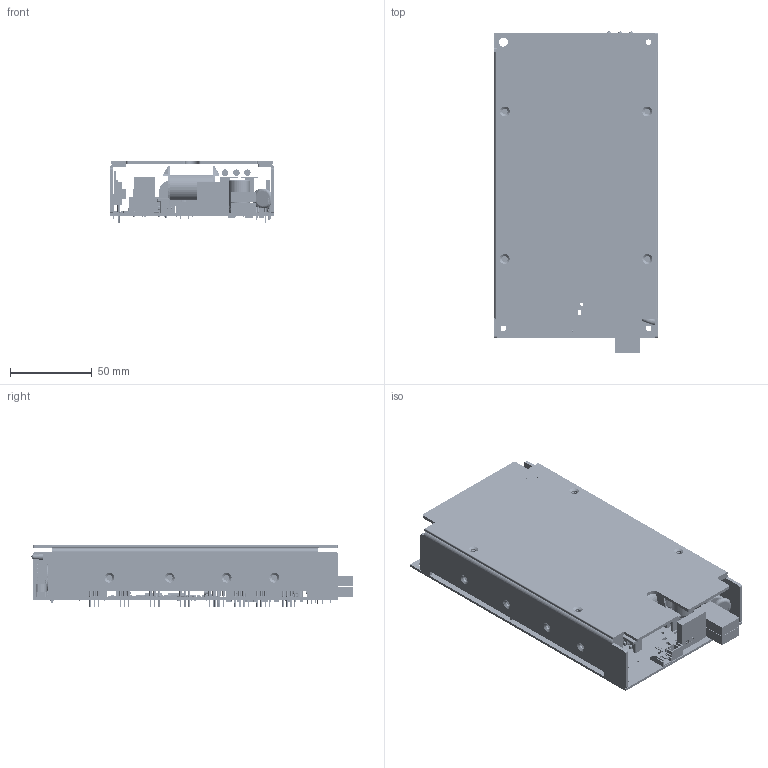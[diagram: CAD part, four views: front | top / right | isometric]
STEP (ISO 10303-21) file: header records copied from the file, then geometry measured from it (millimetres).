
FILE_DESCRIPTION(('Creo Elements/Direct Modeling STEP Export'),'2;1');
FILE_NAME('NTS-400P-20241203.stp','2024-12-03T10:57:36',(''),(''),'Creo Elements/Direct Modeling STEP processor for AP214 (Solid Model)','Creo Elements/Direct Modeling 19.0G 27-Nov-2017 (C) Parametric Technology GmbH','');
FILE_SCHEMA(('AUTOMOTIVE_DESIGN { 1 0 10303 214 1 1 1 1 }'));
Length unit declared in the file: millimetre
Products named in the file (578): 零件1; MS1_2_1.PRT; MS1_2_1_1.PRT; MS1_2.PRT; MS1_2_1_1_1_1.PRT; MS1_2_1_1_1_1_1.PRT; MS1_2_1_1_1.PRT; TO220_2__2_1_1_1.PRT; TO220_2__2_1_1.PRT; TO220_2__1.PRT; TO220_2_.PRT; TO220_2__2.PRT; TO220_2__2_1_1_1_1_1.PRT; TO220_2__2_1_1_1_1.PRT; TO220_2__2_1_1_2.PRT; TO220_2__2_1_1_1_2.PRT; TO220_2__2_1_1_2_1.PRT; TO220_2__2_1_1_3.PRT; _X2_88C5914D_X0_TABE.ASM; HRY-4040_PRT_PRT.PRT; HRY-4040_STEP_ASM.ASM; HRY-4040-0820-1_STP.ASM; CN13_1_1.PRT; CN13_2.PRT; CN13_1.PRT; CN13.PRT; _X2_88C5914D_X0_1.ASM; CYLINDER-312648_PRT.PRT; 699299776_ASM.ASM; 1ARC-ZNR_MOV7_5_PRT.PRT; ZR200_ASM.ASM; SPHERE-297770_PRT.PRT; 630091216_ASM.ASM; CYLINDER-297578_PRT.PRT; 630091368_ASM.ASM; CYLINDER-297386_PRT.PRT; 630091520_ASM.ASM; CYLINDER-297194_PRT.PRT; 868053928_ASM.ASM; CYLINDER-297002_PRT.PRT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
Assembly tree (832 placements, depth 9):
  零件1
  NTS-400P.stp
    NTS-400PA-R3.step
      PCB.ASM
        D215.ASM
          2CDX-SOD323.PRT
        D216.ASM
          2CDX-SOD323.PRT
        C161.ASM
          846095976.PRT
        C160.ASM
          846095976.PRT
        D214.ASM
          2CDX-SOD323.PRT
        D213.ASM
          2CDX-SOD323.PRT
        D212.ASM
          2CDX-SOD323.PRT
        D211.ASM
          2CDX-SOD323.PRT
        C112.ASM
          925442832.ASM  x2
            CYLINDER-287469.PRT
          1387190208.ASM
            EXTRUDED-376029.PRT
        TSW1.ASM
          1387189568.ASM
            EXTRUDED-57895.PRT
          1387190528.ASM
            EXTRUDED-375621.PRT
          1387189408.ASM  x2
            EXTRUDED-58639.PRT
          1FF1-8822.ASM  x2
            EXTRUDED-55742.PRT
          1FF1-8822_1871507285.ASM
            EXTRUDED-56270.PRT
        D110.ASM
          2CDX-SMA.PRT
        R282.ASM
          846098408.ASM
            846098408_4.PRT
            846098408_3.PRT
            846098408_2.PRT
            846098408_1.PRT
        R281.ASM
          846098408.ASM
            846098408_4.PRT
            846098408_3.PRT
            846098408_2.PRT
            846098408_1.PRT
        R280.ASM
          846098256.ASM
            846098256_4.PRT
            846098256_3.PRT
            846098256_2.PRT
            846098256_1.PRT
        R279.ASM
          846098256.ASM
            846098256_4.PRT
            846098256_3.PRT
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Bounding box: 100.5 x 195.97 x 38.13 mm (x, y, z)
Volume: 161322.5 mm3; surface area: 164678 mm2
Topology: 843 solids, 843 shells, 19934 faces, 50573 edges, 32822 vertices
Faces by surface type: plane 11289, extrusion 4978, cylinder 2718, sphere 567, torus 240, bspline 88, cone 50, revolution 4
Entity records: 227025 total; most frequent: CARTESIAN_POINT 60043, ORIENTED_EDGE 27698, DIRECTION 26618, EDGE_CURVE 13849, VECTOR 9922, LINE 9447, VERTEX_POINT 9011, AXIS2_PLACEMENT_3D 8347
